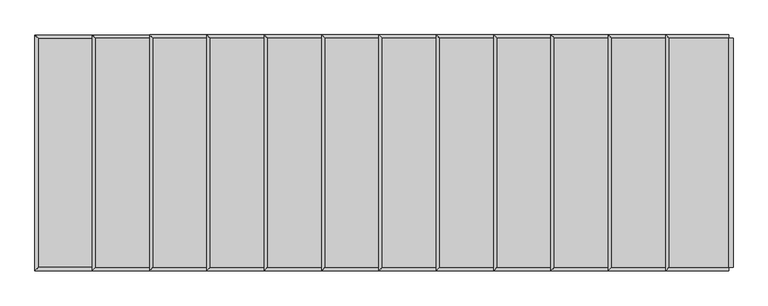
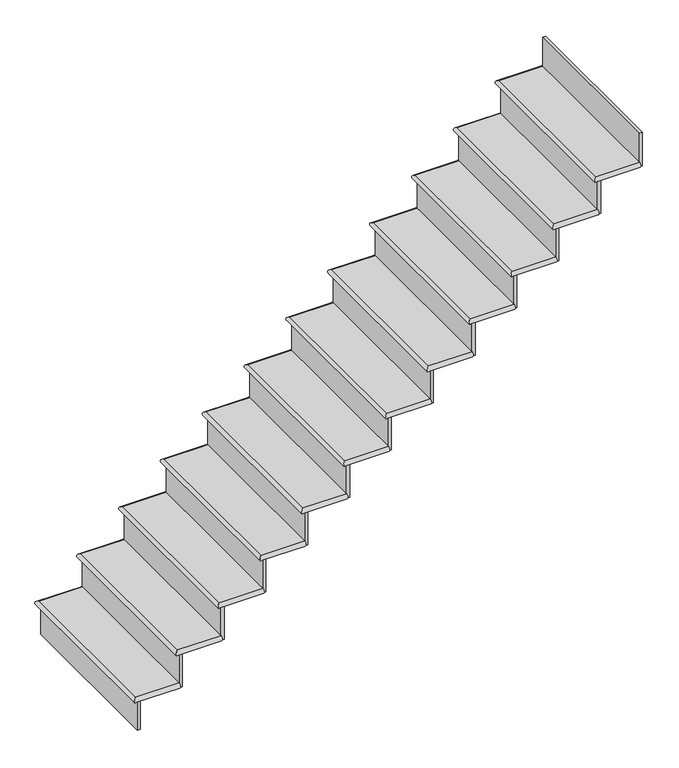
"""IFC4 building model written with IfcOpenShell, lengths in millimetres: stair flight geometry, Wood Steps with 30 mm Tread 25 mm Nosing 19 mm Riser."""

from ifc_helpers import new_model, si_unit, frame, origin, place, context, project, spatial, circle_curve, ellipse_curve, faceted_brep, source, transform, mapped, element, save
from ifc_brep_helpers import plane_surface, cylinder_surface, advanced_brep


def stair_flight_e1315365(model_context):
    return source(origin(), model_context, "Body", "SolidModel", [
        advanced_brep(
        [(-5159.8860857, -3627.8572404, 331.5384615), (-5159.8860857, -3627.8572404, 361.5384615), (-5419.8860857, -3627.8572404, 361.5384615), (-5419.8860857, -3627.8572404, 331.5384615), (-5419.8860857, -2627.8572404, 361.5384615), (-5419.8860857, -2627.8572404, 331.5384615), (-5159.8860857, -2627.8572404, 361.5384615), (-5159.8860857, -2627.8572404, 331.5384615)],
        [
            (0, 1, circle_curve(frame((-5159.8860857, -3627.8572404, 346.5384615), z_axis=(-1.0, 0.0, 0.0), x_axis=(0.0, 1.0, 0.0)), 15.0)),
            (1, 2),
            (2, 3, ellipse_curve(frame((-5419.8860857, -3627.8572404, 346.5384615), z_axis=(0.7071067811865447, -0.7071067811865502, 0.0), x_axis=(0.7071067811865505, 0.7071067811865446, 0.0)), 21.2132034, 15.0)),
            (3, 0),
            (2, 4),
            (4, 5, ellipse_curve(frame((-5419.8860857, -2627.8572404, 346.5384615), z_axis=(-0.7071067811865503, -0.7071067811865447, 0.0), x_axis=(0.7071067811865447, -0.7071067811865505, 0.0)), 21.2132034, 15.0)),
            (5, 3),
            (4, 6),
            (6, 7, circle_curve(frame((-5159.8860857, -2627.8572404, 346.5384615), z_axis=(-1.0, 0.0, 0.0), x_axis=(0.0, -1.0, 0.0)), 15.0)),
            (7, 5),
            (1, 6),
            (7, 0),
        ],
        [
            cylinder_surface(frame((-5159.8860857, -3627.8572404, 346.5384615), z_axis=(1.0, 0.0, 0.0), x_axis=(0.0, 1.0, 0.0)), 15.0),
            cylinder_surface(frame((-5419.8860857, -3627.8572404, 346.5384615), z_axis=(0.0, -1.0, 0.0), x_axis=(1.0, 0.0, 0.0)), 15.0),
            cylinder_surface(frame((-5419.8860857, -2627.8572404, 346.5384615), z_axis=(-1.0, 0.0, 0.0), x_axis=(0.0, -1.0, 0.0)), 15.0),
            plane_surface(frame((-5434.8860857, -2627.8572404, 361.5384615), z_axis=(0.0, 0.0, 1.0), x_axis=(-1.0, 0.0, 0.0))),
            plane_surface(frame((-5434.8860857, -2627.8572404, 331.5384615), z_axis=(0.0, 0.0, -1.0), x_axis=(1.0, 0.0, 0.0))),
            plane_surface(frame((-5159.8860857, -3627.8572404, 361.5384615), z_axis=(1.0, 0.0, 0.0), x_axis=(0.0, 0.0, -1.0))),
        ],
        [
            (0, [[1, 2, 3, 4]]),
            (1, [[-3, 5, 6, 7]]),
            (2, [[-6, 8, 9, 10]]),
            (3, [[11, -8, -5, -2]]),
            (4, [[12, -4, -7, -10]]),
            (5, [[-11, -1, -12, -9]]),
        ],
    ),
        faceted_brep([(-5409.8860857, -3627.8572404, 331.5384615), (-5409.8860857, -3627.8572404, 150.0), (-5390.8860857, -3627.8572404, 150.0), (-5390.8860857, -3627.8572404, 331.5384615), (-5409.8860857, -2627.8572404, 331.5384615), (-5390.8860857, -2627.8572404, 331.5384615), (-5390.8860857, -2627.8572404, 150.0), (-5409.8860857, -2627.8572404, 150.0)], [[[0, 1, 2, 3]], [[4, 5, 6, 7]], [[1, 0, 4, 7]], [[2, 1, 7, 6]], [[3, 2, 6, 5]], [[0, 3, 5, 4]]]),
        faceted_brep([(-5159.8860857, -3627.8572404, 543.0769231), (-5159.8860857, -3627.8572404, 331.5384615), (-5140.8860857, -3627.8572404, 331.5384615), (-5140.8860857, -3627.8572404, 543.0769231), (-5159.8860857, -2627.8572404, 543.0769231), (-5140.8860857, -2627.8572404, 543.0769231), (-5140.8860857, -2627.8572404, 331.5384615), (-5159.8860857, -2627.8572404, 331.5384615)], [[[0, 1, 2, 3]], [[4, 5, 6, 7]], [[1, 0, 4, 7]], [[2, 1, 7, 6]], [[3, 2, 6, 5]], [[0, 3, 5, 4]]]),
        advanced_brep(
        [(-4909.8860857, -3627.8572404, 573.0769231), (-4909.8860857, -2627.8572404, 573.0769231), (-5169.8860857, -2627.8572404, 573.0769231), (-5169.8860857, -3627.8572404, 573.0769231), (-4909.8860857, -2627.8572404, 543.0769231), (-4909.8860857, -3627.8572404, 543.0769231), (-5169.8860857, -3627.8572404, 543.0769231), (-5169.8860857, -2627.8572404, 543.0769231)],
        [
            (0, 1),
            (1, 2),
            (2, 3),
            (3, 0),
            (4, 5),
            (5, 6),
            (6, 7),
            (7, 4),
            (0, 5, circle_curve(frame((-4909.8860857, -3627.8572404, 558.0769231), z_axis=(1.0, 0.0, 0.0), x_axis=(0.0, 1.0, 0.0)), 15.0)),
            (4, 1, circle_curve(frame((-4909.8860857, -2627.8572404, 558.0769231), z_axis=(1.0, 0.0, 0.0), x_axis=(0.0, -1.0, 0.0)), 15.0)),
            (3, 6, ellipse_curve(frame((-5169.8860857, -3627.8572404, 558.0769231), z_axis=(0.7071067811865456, -0.7071067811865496, 0.0), x_axis=(0.7071067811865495, 0.7071067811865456, 0.0)), 21.2132034, 15.0)),
            (2, 7, ellipse_curve(frame((-5169.8860857, -2627.8572404, 558.0769231), z_axis=(-0.7071067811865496, -0.7071067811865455, 0.0), x_axis=(0.7071067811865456, -0.7071067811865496, 0.0)), 21.2132034, 15.0)),
        ],
        [
            plane_surface(frame((-5434.8860857, -2627.8572404, 573.0769231), z_axis=(0.0, 0.0, 1.0), x_axis=(-1.0, 0.0, 0.0))),
            plane_surface(frame((-5434.8860857, -2627.8572404, 543.0769231), z_axis=(0.0, 0.0, -1.0), x_axis=(1.0, 0.0, 0.0))),
            plane_surface(frame((-4909.8860857, -3627.8572404, 573.0769231), z_axis=(1.0, 0.0, 0.0), x_axis=(0.0, 0.0, -1.0))),
            cylinder_surface(frame((-4909.8860857, -3627.8572404, 558.0769231), z_axis=(1.0, 0.0, 0.0), x_axis=(0.0, 1.0, 0.0)), 15.0),
            cylinder_surface(frame((-5169.8860857, -3627.8572404, 558.0769231), z_axis=(0.0, -1.0, 0.0), x_axis=(1.0, 0.0, 0.0)), 15.0),
            cylinder_surface(frame((-5169.8860857, -2627.8572404, 558.0769231), z_axis=(-1.0, 0.0, 0.0), x_axis=(0.0, -1.0, 0.0)), 15.0),
        ],
        [
            (0, [[1, 2, 3, 4]]),
            (1, [[5, 6, 7, 8]]),
            (2, [[-1, 9, -5, 10]]),
            (3, [[-9, -4, 11, -6]]),
            (4, [[-11, -3, 12, -7]]),
            (5, [[-12, -2, -10, -8]]),
        ],
    ),
        faceted_brep([(-4909.8860857, -3627.8572404, 754.6153846), (-4909.8860857, -3627.8572404, 543.0769231), (-4890.8860857, -3627.8572404, 543.0769231), (-4890.8860857, -3627.8572404, 754.6153846), (-4909.8860857, -2627.8572404, 754.6153846), (-4890.8860857, -2627.8572404, 754.6153846), (-4890.8860857, -2627.8572404, 543.0769231), (-4909.8860857, -2627.8572404, 543.0769231)], [[[0, 1, 2, 3]], [[4, 5, 6, 7]], [[1, 0, 4, 7]], [[2, 1, 7, 6]], [[3, 2, 6, 5]], [[0, 3, 5, 4]]]),
        advanced_brep(
        [(-4659.8860857, -3627.8572404, 784.6153846), (-4659.8860857, -2627.8572404, 784.6153846), (-4919.8860857, -2627.8572404, 784.6153846), (-4919.8860857, -3627.8572404, 784.6153846), (-4659.8860857, -2627.8572404, 754.6153846), (-4659.8860857, -3627.8572404, 754.6153846), (-4919.8860857, -3627.8572404, 754.6153846), (-4919.8860857, -2627.8572404, 754.6153846)],
        [
            (0, 1),
            (1, 2),
            (2, 3),
            (3, 0),
            (4, 5),
            (5, 6),
            (6, 7),
            (7, 4),
            (0, 5, circle_curve(frame((-4659.8860857, -3627.8572404, 769.6153846), z_axis=(1.0, 0.0, 0.0), x_axis=(0.0, 1.0, 0.0)), 15.0)),
            (4, 1, circle_curve(frame((-4659.8860857, -2627.8572404, 769.6153846), z_axis=(1.0, 0.0, 0.0), x_axis=(0.0, -1.0, 0.0)), 15.0)),
            (3, 6, ellipse_curve(frame((-4919.8860857, -3627.8572404, 769.6153846), z_axis=(0.7071067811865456, -0.7071067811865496, 0.0), x_axis=(0.7071067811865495, 0.7071067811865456, 0.0)), 21.2132034, 15.0)),
            (2, 7, ellipse_curve(frame((-4919.8860857, -2627.8572404, 769.6153846), z_axis=(-0.7071067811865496, -0.7071067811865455, 0.0), x_axis=(0.7071067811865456, -0.7071067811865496, 0.0)), 21.2132034, 15.0)),
        ],
        [
            plane_surface(frame((-5184.8860857, -2627.8572404, 784.6153846), z_axis=(0.0, 0.0, 1.0), x_axis=(-1.0, 0.0, 0.0))),
            plane_surface(frame((-5184.8860857, -2627.8572404, 754.6153846), z_axis=(0.0, 0.0, -1.0), x_axis=(1.0, 0.0, 0.0))),
            plane_surface(frame((-4659.8860857, -3627.8572404, 784.6153846), z_axis=(1.0, 0.0, 0.0), x_axis=(0.0, 0.0, -1.0))),
            cylinder_surface(frame((-4659.8860857, -3627.8572404, 769.6153846), z_axis=(1.0, 0.0, 0.0), x_axis=(0.0, 1.0, 0.0)), 15.0),
            cylinder_surface(frame((-4919.8860857, -3627.8572404, 769.6153846), z_axis=(0.0, -1.0, 0.0), x_axis=(1.0, 0.0, 0.0)), 15.0),
            cylinder_surface(frame((-4919.8860857, -2627.8572404, 769.6153846), z_axis=(-1.0, 0.0, 0.0), x_axis=(0.0, -1.0, 0.0)), 15.0),
        ],
        [
            (0, [[1, 2, 3, 4]]),
            (1, [[5, 6, 7, 8]]),
            (2, [[-1, 9, -5, 10]]),
            (3, [[-9, -4, 11, -6]]),
            (4, [[-11, -3, 12, -7]]),
            (5, [[-12, -2, -10, -8]]),
        ],
    ),
        faceted_brep([(-4659.8860857, -3627.8572404, 966.1538462), (-4659.8860857, -3627.8572404, 754.6153846), (-4640.8860857, -3627.8572404, 754.6153846), (-4640.8860857, -3627.8572404, 966.1538462), (-4659.8860857, -2627.8572404, 966.1538462), (-4640.8860857, -2627.8572404, 966.1538462), (-4640.8860857, -2627.8572404, 754.6153846), (-4659.8860857, -2627.8572404, 754.6153846)], [[[0, 1, 2, 3]], [[4, 5, 6, 7]], [[1, 0, 4, 7]], [[2, 1, 7, 6]], [[3, 2, 6, 5]], [[0, 3, 5, 4]]]),
        advanced_brep(
        [(-4409.8860857, -3627.8572404, 996.1538462), (-4409.8860857, -2627.8572404, 996.1538462), (-4669.8860857, -2627.8572404, 996.1538462), (-4669.8860857, -3627.8572404, 996.1538462), (-4409.8860857, -2627.8572404, 966.1538462), (-4409.8860857, -3627.8572404, 966.1538462), (-4669.8860857, -3627.8572404, 966.1538462), (-4669.8860857, -2627.8572404, 966.1538462)],
        [
            (0, 1),
            (1, 2),
            (2, 3),
            (3, 0),
            (4, 5),
            (5, 6),
            (6, 7),
            (7, 4),
            (0, 5, circle_curve(frame((-4409.8860857, -3627.8572404, 981.1538462), z_axis=(1.0, 0.0, 0.0), x_axis=(0.0, 1.0, 0.0)), 15.0)),
            (4, 1, circle_curve(frame((-4409.8860857, -2627.8572404, 981.1538462), z_axis=(1.0, 0.0, 0.0), x_axis=(0.0, -1.0, 0.0)), 15.0)),
            (3, 6, ellipse_curve(frame((-4669.8860857, -3627.8572404, 981.1538462), z_axis=(0.7071067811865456, -0.7071067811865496, 0.0), x_axis=(0.7071067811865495, 0.7071067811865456, 0.0)), 21.2132034, 15.0)),
            (2, 7, ellipse_curve(frame((-4669.8860857, -2627.8572404, 981.1538462), z_axis=(-0.7071067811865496, -0.7071067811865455, 0.0), x_axis=(0.7071067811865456, -0.7071067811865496, 0.0)), 21.2132034, 15.0)),
        ],
        [
            plane_surface(frame((-4934.8860857, -2627.8572404, 996.1538462), z_axis=(0.0, 0.0, 1.0), x_axis=(-1.0, 0.0, 0.0))),
            plane_surface(frame((-4934.8860857, -2627.8572404, 966.1538462), z_axis=(0.0, 0.0, -1.0), x_axis=(1.0, 0.0, 0.0))),
            plane_surface(frame((-4409.8860857, -3627.8572404, 996.1538462), z_axis=(1.0, 0.0, 0.0), x_axis=(0.0, 0.0, -1.0))),
            cylinder_surface(frame((-4409.8860857, -3627.8572404, 981.1538462), z_axis=(1.0, 0.0, 0.0), x_axis=(0.0, 1.0, 0.0)), 15.0),
            cylinder_surface(frame((-4669.8860857, -3627.8572404, 981.1538462), z_axis=(0.0, -1.0, 0.0), x_axis=(1.0, 0.0, 0.0)), 15.0),
            cylinder_surface(frame((-4669.8860857, -2627.8572404, 981.1538462), z_axis=(-1.0, 0.0, 0.0), x_axis=(0.0, -1.0, 0.0)), 15.0),
        ],
        [
            (0, [[1, 2, 3, 4]]),
            (1, [[5, 6, 7, 8]]),
            (2, [[-1, 9, -5, 10]]),
            (3, [[-9, -4, 11, -6]]),
            (4, [[-11, -3, 12, -7]]),
            (5, [[-12, -2, -10, -8]]),
        ],
    ),
        faceted_brep([(-4409.8860857, -3627.8572404, 1177.6923077), (-4409.8860857, -3627.8572404, 966.1538462), (-4390.8860857, -3627.8572404, 966.1538462), (-4390.8860857, -3627.8572404, 1177.6923077), (-4409.8860857, -2627.8572404, 1177.6923077), (-4390.8860857, -2627.8572404, 1177.6923077), (-4390.8860857, -2627.8572404, 966.1538462), (-4409.8860857, -2627.8572404, 966.1538462)], [[[0, 1, 2, 3]], [[4, 5, 6, 7]], [[1, 0, 4, 7]], [[2, 1, 7, 6]], [[3, 2, 6, 5]], [[0, 3, 5, 4]]]),
        advanced_brep(
        [(-4159.8860857, -3627.8572404, 1207.6923077), (-4159.8860857, -2627.8572404, 1207.6923077), (-4419.8860857, -2627.8572404, 1207.6923077), (-4419.8860857, -3627.8572404, 1207.6923077), (-4159.8860857, -2627.8572404, 1177.6923077), (-4159.8860857, -3627.8572404, 1177.6923077), (-4419.8860857, -3627.8572404, 1177.6923077), (-4419.8860857, -2627.8572404, 1177.6923077)],
        [
            (0, 1),
            (1, 2),
            (2, 3),
            (3, 0),
            (4, 5),
            (5, 6),
            (6, 7),
            (7, 4),
            (0, 5, circle_curve(frame((-4159.8860857, -3627.8572404, 1192.6923077), z_axis=(1.0, 0.0, 0.0), x_axis=(0.0, 1.0, 0.0)), 15.0)),
            (4, 1, circle_curve(frame((-4159.8860857, -2627.8572404, 1192.6923077), z_axis=(1.0, 0.0, 0.0), x_axis=(0.0, -1.0, 0.0)), 15.0)),
            (3, 6, ellipse_curve(frame((-4419.8860857, -3627.8572404, 1192.6923077), z_axis=(0.7071067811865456, -0.7071067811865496, 0.0), x_axis=(0.7071067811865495, 0.7071067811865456, 0.0)), 21.2132034, 15.0)),
            (2, 7, ellipse_curve(frame((-4419.8860857, -2627.8572404, 1192.6923077), z_axis=(-0.7071067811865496, -0.7071067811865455, 0.0), x_axis=(0.7071067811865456, -0.7071067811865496, 0.0)), 21.2132034, 15.0)),
        ],
        [
            plane_surface(frame((-4684.8860857, -2627.8572404, 1207.6923077), z_axis=(0.0, 0.0, 1.0), x_axis=(-1.0, 0.0, 0.0))),
            plane_surface(frame((-4684.8860857, -2627.8572404, 1177.6923077), z_axis=(0.0, 0.0, -1.0), x_axis=(1.0, 0.0, 0.0))),
            plane_surface(frame((-4159.8860857, -3627.8572404, 1207.6923077), z_axis=(1.0, 0.0, 0.0), x_axis=(0.0, 0.0, -1.0))),
            cylinder_surface(frame((-4159.8860857, -3627.8572404, 1192.6923077), z_axis=(1.0, 0.0, 0.0), x_axis=(0.0, 1.0, 0.0)), 15.0),
            cylinder_surface(frame((-4419.8860857, -3627.8572404, 1192.6923077), z_axis=(0.0, -1.0, 0.0), x_axis=(1.0, 0.0, 0.0)), 15.0),
            cylinder_surface(frame((-4419.8860857, -2627.8572404, 1192.6923077), z_axis=(-1.0, 0.0, 0.0), x_axis=(0.0, -1.0, 0.0)), 15.0),
        ],
        [
            (0, [[1, 2, 3, 4]]),
            (1, [[5, 6, 7, 8]]),
            (2, [[-1, 9, -5, 10]]),
            (3, [[-9, -4, 11, -6]]),
            (4, [[-11, -3, 12, -7]]),
            (5, [[-12, -2, -10, -8]]),
        ],
    ),
        faceted_brep([(-4159.8860857, -3627.8572404, 1389.2307692), (-4159.8860857, -3627.8572404, 1177.6923077), (-4140.8860857, -3627.8572404, 1177.6923077), (-4140.8860857, -3627.8572404, 1389.2307692), (-4159.8860857, -2627.8572404, 1389.2307692), (-4140.8860857, -2627.8572404, 1389.2307692), (-4140.8860857, -2627.8572404, 1177.6923077), (-4159.8860857, -2627.8572404, 1177.6923077)], [[[0, 1, 2, 3]], [[4, 5, 6, 7]], [[1, 0, 4, 7]], [[2, 1, 7, 6]], [[3, 2, 6, 5]], [[0, 3, 5, 4]]]),
        advanced_brep(
        [(-3909.8860857, -3627.8572404, 1419.2307692), (-3909.8860857, -2627.8572404, 1419.2307692), (-4169.8860857, -2627.8572404, 1419.2307692), (-4169.8860857, -3627.8572404, 1419.2307692), (-3909.8860857, -2627.8572404, 1389.2307692), (-3909.8860857, -3627.8572404, 1389.2307692), (-4169.8860857, -3627.8572404, 1389.2307692), (-4169.8860857, -2627.8572404, 1389.2307692)],
        [
            (0, 1),
            (1, 2),
            (2, 3),
            (3, 0),
            (4, 5),
            (5, 6),
            (6, 7),
            (7, 4),
            (0, 5, circle_curve(frame((-3909.8860857, -3627.8572404, 1404.2307692), z_axis=(1.0, 0.0, 0.0), x_axis=(0.0, 1.0, 0.0)), 15.0)),
            (4, 1, circle_curve(frame((-3909.8860857, -2627.8572404, 1404.2307692), z_axis=(1.0, 0.0, 0.0), x_axis=(0.0, -1.0, 0.0)), 15.0)),
            (3, 6, ellipse_curve(frame((-4169.8860857, -3627.8572404, 1404.2307692), z_axis=(0.7071067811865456, -0.7071067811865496, 0.0), x_axis=(0.7071067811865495, 0.7071067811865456, 0.0)), 21.2132034, 15.0)),
            (2, 7, ellipse_curve(frame((-4169.8860857, -2627.8572404, 1404.2307692), z_axis=(-0.7071067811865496, -0.7071067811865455, 0.0), x_axis=(0.7071067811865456, -0.7071067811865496, 0.0)), 21.2132034, 15.0)),
        ],
        [
            plane_surface(frame((-4434.8860857, -2627.8572404, 1419.2307692), z_axis=(0.0, 0.0, 1.0), x_axis=(-1.0, 0.0, 0.0))),
            plane_surface(frame((-4434.8860857, -2627.8572404, 1389.2307692), z_axis=(0.0, 0.0, -1.0), x_axis=(1.0, 0.0, 0.0))),
            plane_surface(frame((-3909.8860857, -3627.8572404, 1419.2307692), z_axis=(1.0, 0.0, 0.0), x_axis=(0.0, 0.0, -1.0))),
            cylinder_surface(frame((-3909.8860857, -3627.8572404, 1404.2307692), z_axis=(1.0, 0.0, 0.0), x_axis=(0.0, 1.0, 0.0)), 15.0),
            cylinder_surface(frame((-4169.8860857, -3627.8572404, 1404.2307692), z_axis=(0.0, -1.0, 0.0), x_axis=(1.0, 0.0, 0.0)), 15.0),
            cylinder_surface(frame((-4169.8860857, -2627.8572404, 1404.2307692), z_axis=(-1.0, 0.0, 0.0), x_axis=(0.0, -1.0, 0.0)), 15.0),
        ],
        [
            (0, [[1, 2, 3, 4]]),
            (1, [[5, 6, 7, 8]]),
            (2, [[-1, 9, -5, 10]]),
            (3, [[-9, -4, 11, -6]]),
            (4, [[-11, -3, 12, -7]]),
            (5, [[-12, -2, -10, -8]]),
        ],
    ),
        faceted_brep([(-3909.8860857, -3627.8572404, 1600.7692308), (-3909.8860857, -3627.8572404, 1389.2307692), (-3890.8860857, -3627.8572404, 1389.2307692), (-3890.8860857, -3627.8572404, 1600.7692308), (-3909.8860857, -2627.8572404, 1600.7692308), (-3890.8860857, -2627.8572404, 1600.7692308), (-3890.8860857, -2627.8572404, 1389.2307692), (-3909.8860857, -2627.8572404, 1389.2307692)], [[[0, 1, 2, 3]], [[4, 5, 6, 7]], [[1, 0, 4, 7]], [[2, 1, 7, 6]], [[3, 2, 6, 5]], [[0, 3, 5, 4]]]),
        advanced_brep(
        [(-3659.8860857, -3627.8572404, 1630.7692308), (-3659.8860857, -2627.8572404, 1630.7692308), (-3919.8860857, -2627.8572404, 1630.7692308), (-3919.8860857, -3627.8572404, 1630.7692308), (-3659.8860857, -2627.8572404, 1600.7692308), (-3659.8860857, -3627.8572404, 1600.7692308), (-3919.8860857, -3627.8572404, 1600.7692308), (-3919.8860857, -2627.8572404, 1600.7692308)],
        [
            (0, 1),
            (1, 2),
            (2, 3),
            (3, 0),
            (4, 5),
            (5, 6),
            (6, 7),
            (7, 4),
            (0, 5, circle_curve(frame((-3659.8860857, -3627.8572404, 1615.7692308), z_axis=(1.0, 0.0, 0.0), x_axis=(0.0, 1.0, 0.0)), 15.0)),
            (4, 1, circle_curve(frame((-3659.8860857, -2627.8572404, 1615.7692308), z_axis=(1.0, 0.0, 0.0), x_axis=(0.0, -1.0, 0.0)), 15.0)),
            (3, 6, ellipse_curve(frame((-3919.8860857, -3627.8572404, 1615.7692308), z_axis=(0.7071067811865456, -0.7071067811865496, 0.0), x_axis=(0.7071067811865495, 0.7071067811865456, 0.0)), 21.2132034, 15.0)),
            (2, 7, ellipse_curve(frame((-3919.8860857, -2627.8572404, 1615.7692308), z_axis=(-0.7071067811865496, -0.7071067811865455, 0.0), x_axis=(0.7071067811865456, -0.7071067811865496, 0.0)), 21.2132034, 15.0)),
        ],
        [
            plane_surface(frame((-4184.8860857, -2627.8572404, 1630.7692308), z_axis=(0.0, 0.0, 1.0), x_axis=(-1.0, 0.0, 0.0))),
            plane_surface(frame((-4184.8860857, -2627.8572404, 1600.7692308), z_axis=(0.0, 0.0, -1.0), x_axis=(1.0, 0.0, 0.0))),
            plane_surface(frame((-3659.8860857, -3627.8572404, 1630.7692308), z_axis=(1.0, 0.0, 0.0), x_axis=(0.0, 0.0, -1.0))),
            cylinder_surface(frame((-3659.8860857, -3627.8572404, 1615.7692308), z_axis=(1.0, 0.0, 0.0), x_axis=(0.0, 1.0, 0.0)), 15.0),
            cylinder_surface(frame((-3919.8860857, -3627.8572404, 1615.7692308), z_axis=(0.0, -1.0, 0.0), x_axis=(1.0, 0.0, 0.0)), 15.0),
            cylinder_surface(frame((-3919.8860857, -2627.8572404, 1615.7692308), z_axis=(-1.0, 0.0, 0.0), x_axis=(0.0, -1.0, 0.0)), 15.0),
        ],
        [
            (0, [[1, 2, 3, 4]]),
            (1, [[5, 6, 7, 8]]),
            (2, [[-1, 9, -5, 10]]),
            (3, [[-9, -4, 11, -6]]),
            (4, [[-11, -3, 12, -7]]),
            (5, [[-12, -2, -10, -8]]),
        ],
    ),
        faceted_brep([(-3659.8860857, -3627.8572404, 1812.3076923), (-3659.8860857, -3627.8572404, 1600.7692308), (-3640.8860857, -3627.8572404, 1600.7692308), (-3640.8860857, -3627.8572404, 1812.3076923), (-3659.8860857, -2627.8572404, 1812.3076923), (-3640.8860857, -2627.8572404, 1812.3076923), (-3640.8860857, -2627.8572404, 1600.7692308), (-3659.8860857, -2627.8572404, 1600.7692308)], [[[0, 1, 2, 3]], [[4, 5, 6, 7]], [[1, 0, 4, 7]], [[2, 1, 7, 6]], [[3, 2, 6, 5]], [[0, 3, 5, 4]]]),
        advanced_brep(
        [(-3409.8860857, -3627.8572404, 1842.3076923), (-3409.8860857, -2627.8572404, 1842.3076923), (-3669.8860857, -2627.8572404, 1842.3076923), (-3669.8860857, -3627.8572404, 1842.3076923), (-3409.8860857, -2627.8572404, 1812.3076923), (-3409.8860857, -3627.8572404, 1812.3076923), (-3669.8860857, -3627.8572404, 1812.3076923), (-3669.8860857, -2627.8572404, 1812.3076923)],
        [
            (0, 1),
            (1, 2),
            (2, 3),
            (3, 0),
            (4, 5),
            (5, 6),
            (6, 7),
            (7, 4),
            (0, 5, circle_curve(frame((-3409.8860857, -3627.8572404, 1827.3076923), z_axis=(1.0, 0.0, 0.0), x_axis=(0.0, 1.0, 0.0)), 15.0)),
            (4, 1, circle_curve(frame((-3409.8860857, -2627.8572404, 1827.3076923), z_axis=(1.0, 0.0, 0.0), x_axis=(0.0, -1.0, 0.0)), 15.0)),
            (3, 6, ellipse_curve(frame((-3669.8860857, -3627.8572404, 1827.3076923), z_axis=(0.7071067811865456, -0.7071067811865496, 0.0), x_axis=(0.7071067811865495, 0.7071067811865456, 0.0)), 21.2132034, 15.0)),
            (2, 7, ellipse_curve(frame((-3669.8860857, -2627.8572404, 1827.3076923), z_axis=(-0.7071067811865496, -0.7071067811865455, 0.0), x_axis=(0.7071067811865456, -0.7071067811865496, 0.0)), 21.2132034, 15.0)),
        ],
        [
            plane_surface(frame((-3934.8860857, -2627.8572404, 1842.3076923), z_axis=(0.0, 0.0, 1.0), x_axis=(-1.0, 0.0, 0.0))),
            plane_surface(frame((-3934.8860857, -2627.8572404, 1812.3076923), z_axis=(0.0, 0.0, -1.0), x_axis=(1.0, 0.0, 0.0))),
            plane_surface(frame((-3409.8860857, -3627.8572404, 1842.3076923), z_axis=(1.0, 0.0, 0.0), x_axis=(0.0, 0.0, -1.0))),
            cylinder_surface(frame((-3409.8860857, -3627.8572404, 1827.3076923), z_axis=(1.0, 0.0, 0.0), x_axis=(0.0, 1.0, 0.0)), 15.0),
            cylinder_surface(frame((-3669.8860857, -3627.8572404, 1827.3076923), z_axis=(0.0, -1.0, 0.0), x_axis=(1.0, 0.0, 0.0)), 15.0),
            cylinder_surface(frame((-3669.8860857, -2627.8572404, 1827.3076923), z_axis=(-1.0, 0.0, 0.0), x_axis=(0.0, -1.0, 0.0)), 15.0),
        ],
        [
            (0, [[1, 2, 3, 4]]),
            (1, [[5, 6, 7, 8]]),
            (2, [[-1, 9, -5, 10]]),
            (3, [[-9, -4, 11, -6]]),
            (4, [[-11, -3, 12, -7]]),
            (5, [[-12, -2, -10, -8]]),
        ],
    ),
        faceted_brep([(-3409.8860857, -3627.8572404, 2023.8461538), (-3409.8860857, -3627.8572404, 1812.3076923), (-3390.8860857, -3627.8572404, 1812.3076923), (-3390.8860857, -3627.8572404, 2023.8461538), (-3409.8860857, -2627.8572404, 2023.8461538), (-3390.8860857, -2627.8572404, 2023.8461538), (-3390.8860857, -2627.8572404, 1812.3076923), (-3409.8860857, -2627.8572404, 1812.3076923)], [[[0, 1, 2, 3]], [[4, 5, 6, 7]], [[1, 0, 4, 7]], [[2, 1, 7, 6]], [[3, 2, 6, 5]], [[0, 3, 5, 4]]]),
        advanced_brep(
        [(-3159.8860857, -3627.8572404, 2053.8461538), (-3159.8860857, -2627.8572404, 2053.8461538), (-3419.8860857, -2627.8572404, 2053.8461538), (-3419.8860857, -3627.8572404, 2053.8461538), (-3159.8860857, -2627.8572404, 2023.8461538), (-3159.8860857, -3627.8572404, 2023.8461538), (-3419.8860857, -3627.8572404, 2023.8461538), (-3419.8860857, -2627.8572404, 2023.8461538)],
        [
            (0, 1),
            (1, 2),
            (2, 3),
            (3, 0),
            (4, 5),
            (5, 6),
            (6, 7),
            (7, 4),
            (0, 5, circle_curve(frame((-3159.8860857, -3627.8572404, 2038.8461538), z_axis=(1.0, 0.0, 0.0), x_axis=(0.0, 1.0, 0.0)), 15.0)),
            (4, 1, circle_curve(frame((-3159.8860857, -2627.8572404, 2038.8461538), z_axis=(1.0, 0.0, 0.0), x_axis=(0.0, -1.0, 0.0)), 15.0)),
            (3, 6, ellipse_curve(frame((-3419.8860857, -3627.8572404, 2038.8461538), z_axis=(0.7071067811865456, -0.7071067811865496, 0.0), x_axis=(0.7071067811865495, 0.7071067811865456, 0.0)), 21.2132034, 15.0)),
            (2, 7, ellipse_curve(frame((-3419.8860857, -2627.8572404, 2038.8461538), z_axis=(-0.7071067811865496, -0.7071067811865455, 0.0), x_axis=(0.7071067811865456, -0.7071067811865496, 0.0)), 21.2132034, 15.0)),
        ],
        [
            plane_surface(frame((-3684.8860857, -2627.8572404, 2053.8461538), z_axis=(0.0, 0.0, 1.0), x_axis=(-1.0, 0.0, 0.0))),
            plane_surface(frame((-3684.8860857, -2627.8572404, 2023.8461538), z_axis=(0.0, 0.0, -1.0), x_axis=(1.0, 0.0, 0.0))),
            plane_surface(frame((-3159.8860857, -3627.8572404, 2053.8461538), z_axis=(1.0, 0.0, 0.0), x_axis=(0.0, 0.0, -1.0))),
            cylinder_surface(frame((-3159.8860857, -3627.8572404, 2038.8461538), z_axis=(1.0, 0.0, 0.0), x_axis=(0.0, 1.0, 0.0)), 15.0),
            cylinder_surface(frame((-3419.8860857, -3627.8572404, 2038.8461538), z_axis=(0.0, -1.0, 0.0), x_axis=(1.0, 0.0, 0.0)), 15.0),
            cylinder_surface(frame((-3419.8860857, -2627.8572404, 2038.8461538), z_axis=(-1.0, 0.0, 0.0), x_axis=(0.0, -1.0, 0.0)), 15.0),
        ],
        [
            (0, [[1, 2, 3, 4]]),
            (1, [[5, 6, 7, 8]]),
            (2, [[-1, 9, -5, 10]]),
            (3, [[-9, -4, 11, -6]]),
            (4, [[-11, -3, 12, -7]]),
            (5, [[-12, -2, -10, -8]]),
        ],
    ),
        faceted_brep([(-3159.8860857, -3627.8572404, 2235.3846154), (-3159.8860857, -3627.8572404, 2023.8461538), (-3140.8860857, -3627.8572404, 2023.8461538), (-3140.8860857, -3627.8572404, 2235.3846154), (-3159.8860857, -2627.8572404, 2235.3846154), (-3140.8860857, -2627.8572404, 2235.3846154), (-3140.8860857, -2627.8572404, 2023.8461538), (-3159.8860857, -2627.8572404, 2023.8461538)], [[[0, 1, 2, 3]], [[4, 5, 6, 7]], [[1, 0, 4, 7]], [[2, 1, 7, 6]], [[3, 2, 6, 5]], [[0, 3, 5, 4]]]),
        advanced_brep(
        [(-2909.8860857, -3627.8572404, 2265.3846154), (-2909.8860857, -2627.8572404, 2265.3846154), (-3169.8860857, -2627.8572404, 2265.3846154), (-3169.8860857, -3627.8572404, 2265.3846154), (-2909.8860857, -2627.8572404, 2235.3846154), (-2909.8860857, -3627.8572404, 2235.3846154), (-3169.8860857, -3627.8572404, 2235.3846154), (-3169.8860857, -2627.8572404, 2235.3846154)],
        [
            (0, 1),
            (1, 2),
            (2, 3),
            (3, 0),
            (4, 5),
            (5, 6),
            (6, 7),
            (7, 4),
            (0, 5, circle_curve(frame((-2909.8860857, -3627.8572404, 2250.3846154), z_axis=(1.0, 0.0, 0.0), x_axis=(0.0, 1.0, 0.0)), 15.0)),
            (4, 1, circle_curve(frame((-2909.8860857, -2627.8572404, 2250.3846154), z_axis=(1.0, 0.0, 0.0), x_axis=(0.0, -1.0, 0.0)), 15.0)),
            (3, 6, ellipse_curve(frame((-3169.8860857, -3627.8572404, 2250.3846154), z_axis=(0.7071067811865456, -0.7071067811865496, 0.0), x_axis=(0.7071067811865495, 0.7071067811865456, 0.0)), 21.2132034, 15.0)),
            (2, 7, ellipse_curve(frame((-3169.8860857, -2627.8572404, 2250.3846154), z_axis=(-0.7071067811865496, -0.7071067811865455, 0.0), x_axis=(0.7071067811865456, -0.7071067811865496, 0.0)), 21.2132034, 15.0)),
        ],
        [
            plane_surface(frame((-3434.8860857, -2627.8572404, 2265.3846154), z_axis=(0.0, 0.0, 1.0), x_axis=(-1.0, 0.0, 0.0))),
            plane_surface(frame((-3434.8860857, -2627.8572404, 2235.3846154), z_axis=(0.0, 0.0, -1.0), x_axis=(1.0, 0.0, 0.0))),
            plane_surface(frame((-2909.8860857, -3627.8572404, 2265.3846154), z_axis=(1.0, 0.0, 0.0), x_axis=(0.0, 0.0, -1.0))),
            cylinder_surface(frame((-2909.8860857, -3627.8572404, 2250.3846154), z_axis=(1.0, 0.0, 0.0), x_axis=(0.0, 1.0, 0.0)), 15.0),
            cylinder_surface(frame((-3169.8860857, -3627.8572404, 2250.3846154), z_axis=(0.0, -1.0, 0.0), x_axis=(1.0, 0.0, 0.0)), 15.0),
            cylinder_surface(frame((-3169.8860857, -2627.8572404, 2250.3846154), z_axis=(-1.0, 0.0, 0.0), x_axis=(0.0, -1.0, 0.0)), 15.0),
        ],
        [
            (0, [[1, 2, 3, 4]]),
            (1, [[5, 6, 7, 8]]),
            (2, [[-1, 9, -5, 10]]),
            (3, [[-9, -4, 11, -6]]),
            (4, [[-11, -3, 12, -7]]),
            (5, [[-12, -2, -10, -8]]),
        ],
    ),
        faceted_brep([(-2909.8860857, -3627.8572404, 2446.9230769), (-2909.8860857, -3627.8572404, 2235.3846154), (-2890.8860857, -3627.8572404, 2235.3846154), (-2890.8860857, -3627.8572404, 2446.9230769), (-2909.8860857, -2627.8572404, 2446.9230769), (-2890.8860857, -2627.8572404, 2446.9230769), (-2890.8860857, -2627.8572404, 2235.3846154), (-2909.8860857, -2627.8572404, 2235.3846154)], [[[0, 1, 2, 3]], [[4, 5, 6, 7]], [[1, 0, 4, 7]], [[2, 1, 7, 6]], [[3, 2, 6, 5]], [[0, 3, 5, 4]]]),
        advanced_brep(
        [(-2659.8860857, -3627.8572404, 2476.9230769), (-2659.8860857, -2627.8572404, 2476.9230769), (-2919.8860857, -2627.8572404, 2476.9230769), (-2919.8860857, -3627.8572404, 2476.9230769), (-2659.8860857, -2627.8572404, 2446.9230769), (-2659.8860857, -3627.8572404, 2446.9230769), (-2919.8860857, -3627.8572404, 2446.9230769), (-2919.8860857, -2627.8572404, 2446.9230769)],
        [
            (0, 1),
            (1, 2),
            (2, 3),
            (3, 0),
            (4, 5),
            (5, 6),
            (6, 7),
            (7, 4),
            (0, 5, circle_curve(frame((-2659.8860857, -3627.8572404, 2461.9230769), z_axis=(1.0, 0.0, 0.0), x_axis=(0.0, 1.0, 0.0)), 15.0)),
            (4, 1, circle_curve(frame((-2659.8860857, -2627.8572404, 2461.9230769), z_axis=(1.0, 0.0, 0.0), x_axis=(0.0, -1.0, 0.0)), 15.0)),
            (3, 6, ellipse_curve(frame((-2919.8860857, -3627.8572404, 2461.9230769), z_axis=(0.7071067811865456, -0.7071067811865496, 0.0), x_axis=(0.7071067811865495, 0.7071067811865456, 0.0)), 21.2132034, 15.0)),
            (2, 7, ellipse_curve(frame((-2919.8860857, -2627.8572404, 2461.9230769), z_axis=(-0.7071067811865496, -0.7071067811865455, 0.0), x_axis=(0.7071067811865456, -0.7071067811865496, 0.0)), 21.2132034, 15.0)),
        ],
        [
            plane_surface(frame((-3184.8860857, -2627.8572404, 2476.9230769), z_axis=(0.0, 0.0, 1.0), x_axis=(-1.0, 0.0, 0.0))),
            plane_surface(frame((-3184.8860857, -2627.8572404, 2446.9230769), z_axis=(0.0, 0.0, -1.0), x_axis=(1.0, 0.0, 0.0))),
            plane_surface(frame((-2659.8860857, -3627.8572404, 2476.9230769), z_axis=(1.0, 0.0, 0.0), x_axis=(0.0, 0.0, -1.0))),
            cylinder_surface(frame((-2659.8860857, -3627.8572404, 2461.9230769), z_axis=(1.0, 0.0, 0.0), x_axis=(0.0, 1.0, 0.0)), 15.0),
            cylinder_surface(frame((-2919.8860857, -3627.8572404, 2461.9230769), z_axis=(0.0, -1.0, 0.0), x_axis=(1.0, 0.0, 0.0)), 15.0),
            cylinder_surface(frame((-2919.8860857, -2627.8572404, 2461.9230769), z_axis=(-1.0, 0.0, 0.0), x_axis=(0.0, -1.0, 0.0)), 15.0),
        ],
        [
            (0, [[1, 2, 3, 4]]),
            (1, [[5, 6, 7, 8]]),
            (2, [[-1, 9, -5, 10]]),
            (3, [[-9, -4, 11, -6]]),
            (4, [[-11, -3, 12, -7]]),
            (5, [[-12, -2, -10, -8]]),
        ],
    ),
        faceted_brep([(-2659.8860857, -3627.8572404, 2658.4615385), (-2659.8860857, -3627.8572404, 2446.9230769), (-2640.8860857, -3627.8572404, 2446.9230769), (-2640.8860857, -3627.8572404, 2658.4615385), (-2659.8860857, -2627.8572404, 2658.4615385), (-2640.8860857, -2627.8572404, 2658.4615385), (-2640.8860857, -2627.8572404, 2446.9230769), (-2659.8860857, -2627.8572404, 2446.9230769)], [[[0, 1, 2, 3]], [[4, 5, 6, 7]], [[1, 0, 4, 7]], [[2, 1, 7, 6]], [[3, 2, 6, 5]], [[0, 3, 5, 4]]]),
        faceted_brep([(-2409.8860857, -3627.8572404, 2870.0), (-2409.8860857, -3627.8572404, 2658.4615385), (-2390.8860857, -3627.8572404, 2658.4615385), (-2390.8860857, -3627.8572404, 2870.0), (-2409.8860857, -2627.8572404, 2870.0), (-2390.8860857, -2627.8572404, 2870.0), (-2390.8860857, -2627.8572404, 2658.4615385), (-2409.8860857, -2627.8572404, 2658.4615385)], [[[0, 1, 2, 3]], [[4, 5, 6, 7]], [[1, 0, 4, 7]], [[2, 1, 7, 6]], [[3, 2, 6, 5]], [[0, 3, 5, 4]]]),
        advanced_brep(
        [(-2409.8860857, -3627.8572404, 2688.4615385), (-2409.8860857, -2627.8572404, 2688.4615385), (-2669.8860857, -2627.8572404, 2688.4615385), (-2669.8860857, -3627.8572404, 2688.4615385), (-2409.8860857, -2627.8572404, 2658.4615385), (-2409.8860857, -3627.8572404, 2658.4615385), (-2669.8860857, -3627.8572404, 2658.4615385), (-2669.8860857, -2627.8572404, 2658.4615385)],
        [
            (0, 1),
            (1, 2),
            (2, 3),
            (3, 0),
            (4, 5),
            (5, 6),
            (6, 7),
            (7, 4),
            (0, 5, circle_curve(frame((-2409.8860857, -3627.8572404, 2673.4615385), z_axis=(1.0, 0.0, 0.0), x_axis=(0.0, 1.0, 0.0)), 15.0)),
            (4, 1, circle_curve(frame((-2409.8860857, -2627.8572404, 2673.4615385), z_axis=(1.0, 0.0, 0.0), x_axis=(0.0, -1.0, 0.0)), 15.0)),
            (3, 6, ellipse_curve(frame((-2669.8860857, -3627.8572404, 2673.4615385), z_axis=(0.7071067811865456, -0.7071067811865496, 0.0), x_axis=(0.7071067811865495, 0.7071067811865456, 0.0)), 21.2132034, 15.0)),
            (2, 7, ellipse_curve(frame((-2669.8860857, -2627.8572404, 2673.4615385), z_axis=(-0.7071067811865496, -0.7071067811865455, 0.0), x_axis=(0.7071067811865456, -0.7071067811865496, 0.0)), 21.2132034, 15.0)),
        ],
        [
            plane_surface(frame((-2934.8860857, -2627.8572404, 2688.4615385), z_axis=(0.0, 0.0, 1.0), x_axis=(-1.0, 0.0, 0.0))),
            plane_surface(frame((-2934.8860857, -2627.8572404, 2658.4615385), z_axis=(0.0, 0.0, -1.0), x_axis=(1.0, 0.0, 0.0))),
            plane_surface(frame((-2409.8860857, -3627.8572404, 2688.4615385), z_axis=(1.0, 0.0, 0.0), x_axis=(0.0, 0.0, -1.0))),
            cylinder_surface(frame((-2409.8860857, -3627.8572404, 2673.4615385), z_axis=(1.0, 0.0, 0.0), x_axis=(0.0, 1.0, 0.0)), 15.0),
            cylinder_surface(frame((-2669.8860857, -3627.8572404, 2673.4615385), z_axis=(0.0, -1.0, 0.0), x_axis=(1.0, 0.0, 0.0)), 15.0),
            cylinder_surface(frame((-2669.8860857, -2627.8572404, 2673.4615385), z_axis=(-1.0, 0.0, 0.0), x_axis=(0.0, -1.0, 0.0)), 15.0),
        ],
        [
            (0, [[1, 2, 3, 4]]),
            (1, [[5, 6, 7, 8]]),
            (2, [[-1, 9, -5, 10]]),
            (3, [[-9, -4, 11, -6]]),
            (4, [[-11, -3, 12, -7]]),
            (5, [[-12, -2, -10, -8]]),
        ],
    ),
    ])


if __name__ == "__main__":
    model = new_model("IFC4")
    model_context = context("Model", 3, world=origin())
    ifc_project = project(units=[si_unit("LENGTHUNIT", "METRE", prefix="MILLI")], contexts=[model_context])
    site = spatial("IfcSite", under=ifc_project)
    building = spatial("IfcBuilding", under=site)
    placement = place(None, origin())
    stair_flight_shape = stair_flight_e1315365(model_context)
    element("IfcStairFlight", 1, ObjectType="Wood Steps with 30 mm Tread 25 mm Nosing 19 mm Riser", at=placement, inside=building, context=model_context, shape_type="MappedRepresentation", body=[
        mapped(stair_flight_shape, transform((0.0, 0.0, 0.0), x_axis=(1.0, 0.0, 0.0), y_axis=(0.0, 1.0, 0.0), z_axis=(0.0, 0.0, 1.0))),
    ])
    save(model, "model.ifc")
